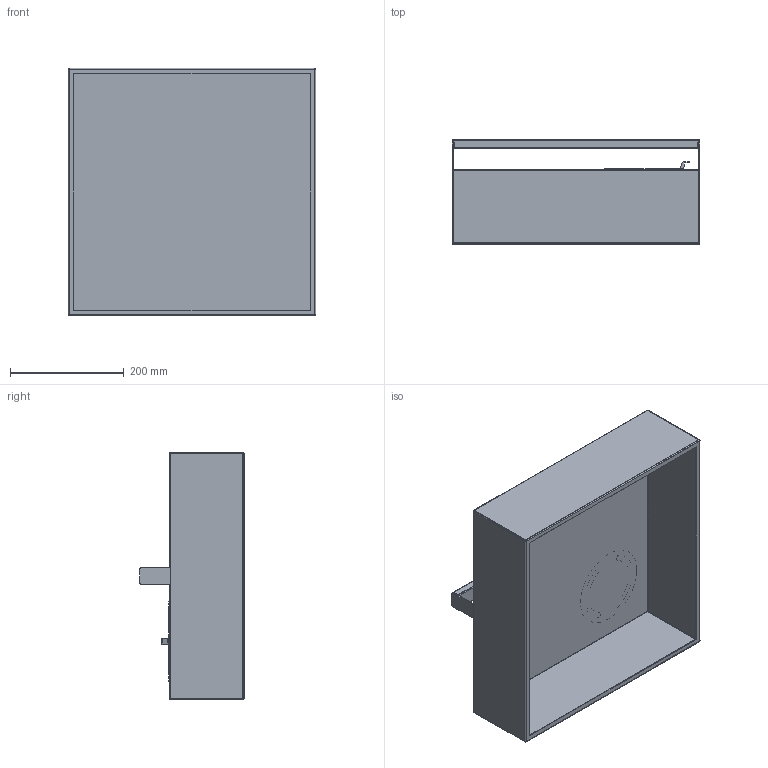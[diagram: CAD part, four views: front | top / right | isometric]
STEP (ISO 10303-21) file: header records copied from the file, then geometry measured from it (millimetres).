
FILE_DESCRIPTION(/* description */ (''),/* implementation_level */ '2;1');
FILE_NAME(/* name */ 'C:\INVENTOR\Workspace\# ARKITEKT FILER\Modules\Lid\Lid Charcoal X.stp',/* time_stamp */ '2020-05-28T10:47:51+02:00',/* author */ ('Röshults'),/* organization */ (''),/* preprocessor_version */ 'ST-DEVELOPER v17.2',/* originating_system */ 'Autodesk Inventor 2019',/* authorisation */ '');
FILE_SCHEMA (('AUTOMOTIVE_DESIGN { 1 0 10303 214 3 1 1 }'));
Length unit declared in the file: millimetre
Products named in the file (3): Lid Charcoal; Lid; Lid Vent
Assembly tree (2 placements, depth 2):
  Lid Charcoal
    Lid
    Lid Vent
Bounding box: 435 x 183 x 435 mm (x, y, z)
Volume: 720046.1 mm3; surface area: 962166.6 mm2
Topology: 3 solids, 4 shells, 139 faces, 327 edges, 198 vertices
Faces by surface type: plane 68, cylinder 55, sphere 16
Entity records: 4074 total; most frequent: DIRECTION 727, CARTESIAN_POINT 679, ORIENTED_EDGE 654, EDGE_CURVE 327, AXIS2_PLACEMENT_3D 258, LINE 211, VECTOR 211, VERTEX_POINT 198
